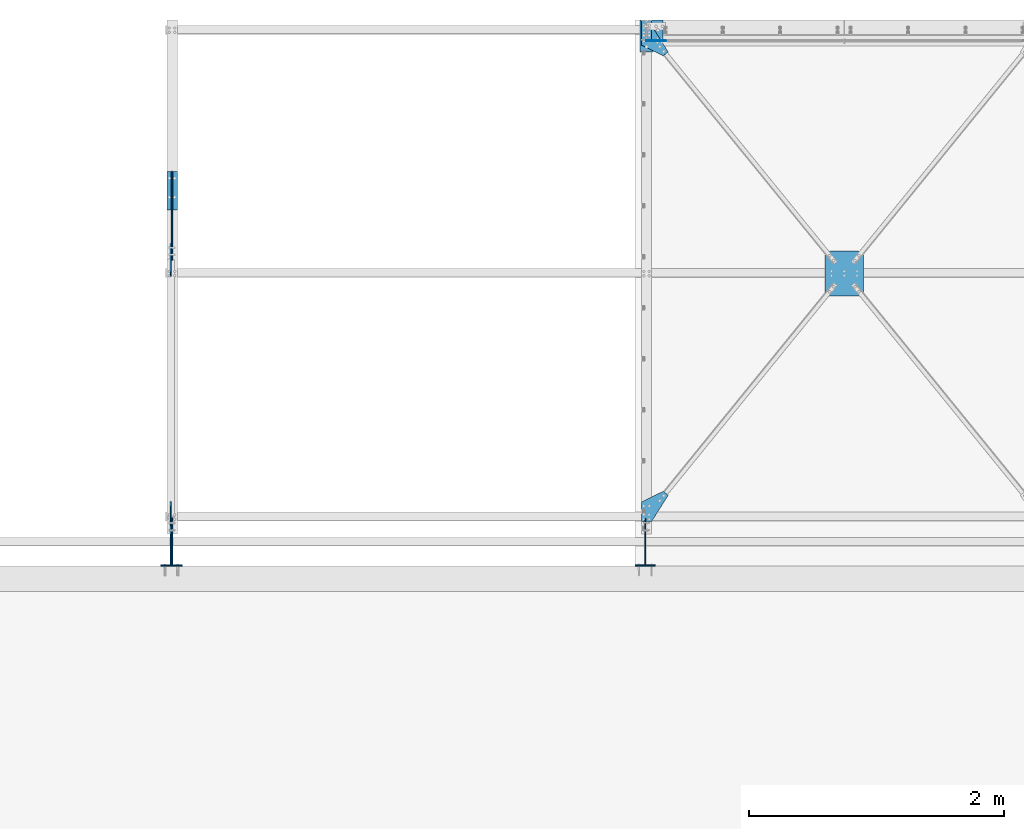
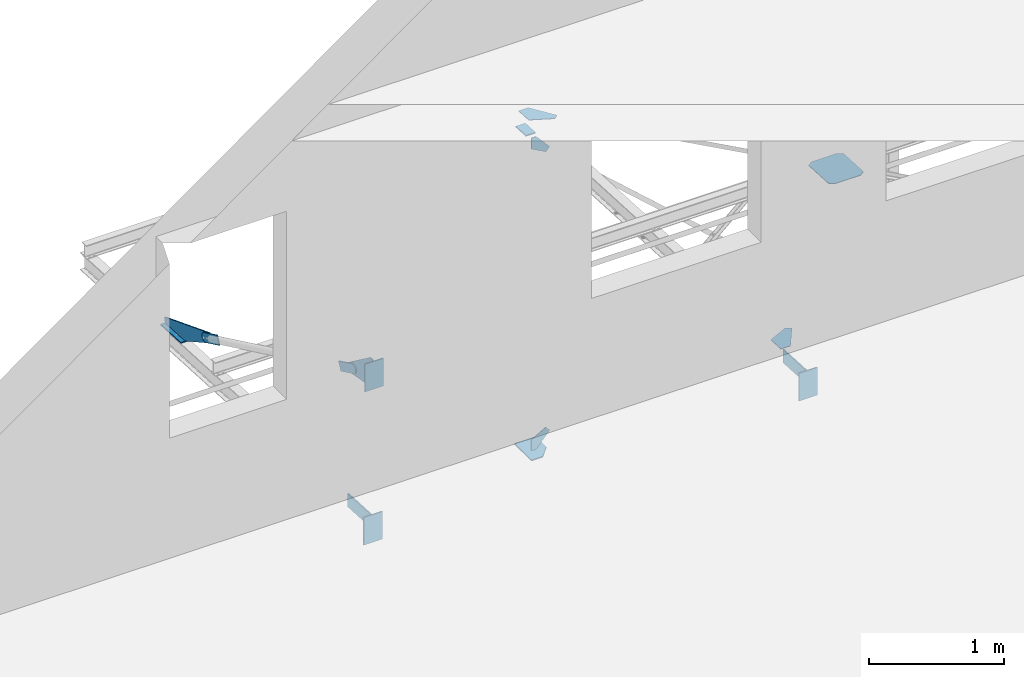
# One storey, part 101 of 362: 17 beams, 11 elements without a shape of their own.
"""IFC2X3 building model written with IfcOpenShell, lengths in millimetres."""

from ifc_helpers import new_model, si_unit, frame, frame_2d, origin_with_axes, origin_2d_with_axis, place, context, subcontext, project, spatial, polyline, circle_curve, parameter, trimmed, segment, composite_curve, rectangle, outline, extrude, material, type_object, element, aggregate, save


model = new_model("IFC2X3")

# Units and contexts
model_context = context("Model", 3, precision=1e-05, world=origin_with_axes())
body_context = subcontext(model_context, "Body", "Model", "MODEL_VIEW")
ifc_project = project(units=[si_unit("LENGTHUNIT", "METRE", prefix="MILLI"), si_unit("AREAUNIT", "SQUARE_METRE"), si_unit("VOLUMEUNIT", "CUBIC_METRE"), si_unit("MASSUNIT", "GRAM", prefix="KILO"), si_unit("TIMEUNIT", "SECOND"), si_unit("PLANEANGLEUNIT", "RADIAN"), si_unit("SOLIDANGLEUNIT", "STERADIAN"), si_unit("THERMODYNAMICTEMPERATUREUNIT", "DEGREE_CELSIUS"), si_unit("LUMINOUSINTENSITYUNIT", "LUMEN")], contexts=[model_context])

# Site, building, storey
site_placement = place(None, origin_with_axes())
site = spatial("IfcSite", under=ifc_project, at=site_placement, Name="Undefined", CompositionType="ELEMENT")
building_placement = place(site_placement, origin_with_axes())
building = spatial("IfcBuilding", under=site, at=building_placement, Name="Undefined", CompositionType="ELEMENT")
storey_placement = place(building_placement, origin_with_axes())
storey = spatial("IfcBuildingStorey", under=building, at=storey_placement, Name="Undefined", CompositionType="ELEMENT", Elevation=0.0)

# Assembly, beams
assembly_1_placement = place(storey_placement, origin_with_axes())
assembly_1 = element("IfcElementAssembly", 1, at=assembly_1_placement, inside=storey, AssemblyPlace="NOTDEFINED", PredefinedType="NOTDEFINED")
ifc_material_1 = material(Name="Undefined/S235-E24")
beam_type_1 = type_object("IfcBeamType", Name="PL10*80", PredefinedType="NOTDEFINED")
beam_1_placement = place(assembly_1_placement, frame((25175.0000293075, 27344.6103668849, 3273.48983429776), z_axis=(1.0, 0.0, 0.0), x_axis=(0.0, -0.431020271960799, -0.902342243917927)))
beam_1 = element("IfcBeam", 2, at=beam_1_placement, type_object=beam_type_1, material=ifc_material_1, Name="GOUSSET", ObjectType="PL10*80", context=body_context, shape_type="SweptSolid", body=[
    extrude(outline(composite_curve([segment(polyline([(0.0, 0.0), (80.00000000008, 8.00355337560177e-11), (80.0000000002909, 219.999999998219)]), True, "CONTINUOUS"), segment(trimmed(circle_curve(frame_2d((40.0000000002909, 219.999999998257), x_axis=(1.0, 0.0)), 40.0), [parameter(0.0)], [parameter(1.57079632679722)], True, "PARAMETER"), True, "CONTINUOUS"), segment(trimmed(circle_curve(frame_2d((40.0000000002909, 219.999999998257), x_axis=(0.0, 1.0)), 40.0), [parameter(0.0)], [parameter(1.57079632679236)], True, "PARAMETER"), True, "CONTINUOUS"), segment(polyline([(2.58576339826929e-10, 219.999999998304), (0.0, 0.0)]), True, "CONTINUOUS")], self_intersect=True)), frame((0.0, 0.0, -5.0), z_axis=(0.0, 0.0, 1.0), x_axis=(1.0, 0.0, 0.0)), (0.0, 0.0, 1.0), 10.0),
])
beam_2_placement = place(assembly_1_placement, frame((25175.0000297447, 25546.3609697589, 4132.45653951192), z_axis=(-1.0, 0.0, 0.0), x_axis=(0.0, -0.431020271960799, -0.902342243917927)))
beam_2 = element("IfcBeam", 3, at=beam_2_placement, type_object=beam_type_1, material=ifc_material_1, Name="GOUSSET", ObjectType="PL10*80", context=body_context, shape_type="SweptSolid", body=[
    extrude(outline(composite_curve([segment(polyline([(0.0, 0.0), (80.00000000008, 8.00355337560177e-11), (80.0000000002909, 219.999999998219)]), True, "CONTINUOUS"), segment(trimmed(circle_curve(frame_2d((40.0000000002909, 219.999999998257), x_axis=(1.0, 0.0)), 40.0), [parameter(0.0)], [parameter(1.57079632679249)], True, "PARAMETER"), True, "CONTINUOUS"), segment(trimmed(circle_curve(frame_2d((40.0000000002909, 219.999999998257), x_axis=(0.0, 1.0)), 40.0), [parameter(0.0)], [parameter(1.57079632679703)], True, "PARAMETER"), True, "CONTINUOUS"), segment(polyline([(2.58576339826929e-10, 219.999999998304), (0.0, 0.0)]), True, "CONTINUOUS")], self_intersect=True)), frame((0.0, 0.0, -5.0), z_axis=(0.0, 0.0, 1.0), x_axis=(1.0, 0.0, 0.0)), (0.0, 0.0, 1.0), 10.0),
])
aggregate(assembly_1, [beam_1, beam_2])

# Assembly, beam
assembly_2_placement = place(storey_placement, origin_with_axes())
assembly_2 = element("IfcElementAssembly", 4, at=assembly_2_placement, inside=storey, AssemblyPlace="NOTDEFINED", PredefinedType="NOTDEFINED")
beam_type_2 = type_object("IfcBeamType", Name="PL5*157", PredefinedType="NOTDEFINED")
beam_3_placement = place(assembly_2_placement, frame((29026.3497644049, 29157.4999999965, 2481.02868492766), z_axis=(0.0, 1.0, 0.0), x_axis=(-0.872821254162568, 0.0, 0.488040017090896)))
beam_3 = element("IfcBeam", 5, at=beam_3_placement, type_object=beam_type_2, material=ifc_material_1, Name="GOUSSET", ObjectType="PL5*157", context=body_context, shape_type="SweptSolid", body=[
    extrude(outline(polyline([(0.0, 0.0), (141.32307433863, 1.14596332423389e-10), (190.127075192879, 87.282104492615), (154.341445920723, 107.291732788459), (-10.885918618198, 48.8027305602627), (0.0, 0.0)])), frame((0.0, 0.0, -2.5), z_axis=(0.0, 0.0, 1.0), x_axis=(1.0, 0.0, 0.0)), (0.0, 0.0, 1.0), 5.0),
])
aggregate(assembly_2, [beam_3])

assembly_3_placement = place(storey_placement, origin_with_axes())
assembly_3 = element("IfcElementAssembly", 6, at=assembly_3_placement, inside=storey, AssemblyPlace="NOTDEFINED", PredefinedType="NOTDEFINED")
beam_4_placement = place(assembly_3_placement, frame((29059.6982862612, 29157.4999999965, -43.2829862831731), z_axis=(0.0, 1.0, 0.0), x_axis=(-0.659944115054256, 0.0, -0.751314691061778)))
beam_4 = element("IfcBeam", 7, at=beam_4_placement, type_object=beam_type_2, material=ifc_material_1, Name="GOUSSET", ObjectType="PL5*157", context=body_context, shape_type="SweptSolid", body=[
    extrude(outline(polyline([(0.0, 0.0), (175.315383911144, -3.89263732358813e-10), (202.37309265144, 30.8039016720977), (127.24160766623, 96.7983245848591), (-5.98146963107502, 49.6409301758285), (0.0, 0.0)])), frame((0.0, 0.0, -2.5), z_axis=(0.0, 0.0, 1.0), x_axis=(1.0, 0.0, 0.0)), (0.0, 0.0, 1.0), 5.0),
])
aggregate(assembly_3, [beam_4])

assembly_4_placement = place(storey_placement, origin_with_axes())
assembly_4 = element("IfcElementAssembly", 8, at=assembly_4_placement, inside=storey, Name="POTEAU", AssemblyPlace="NOTDEFINED", PredefinedType="NOTDEFINED")
beam_type_3 = type_object("IfcBeamType", Name="PL10*82", PredefinedType="NOTDEFINED")
beam_5_placement = place(assembly_4_placement, frame((28902.9999703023, 29316.656577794, 2668.75845304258), z_axis=(1.0, 0.0, 0.0), x_axis=(0.0, -0.998630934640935, 0.0523092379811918)))
beam_5 = element("IfcBeam", 9, at=beam_5_placement, type_object=beam_type_3, material=ifc_material_1, Name="PLAT", ObjectType="PL10*82", context=body_context, shape_type="SweptSolid", body=[
    extrude(rectangle(XDim=10.0, YDim=82.0, at=origin_2d_with_axis()), frame((152.999350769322, 0.0, 0.0), z_axis=(-1.0, 0.0, 0.0), x_axis=(0.0, -1.0, 0.0)), (0.0, 0.0, 1.0), 153.0),
])

assembly_5_placement = place(storey_placement, origin_with_axes())
assembly_5 = element("IfcElementAssembly", 10, at=assembly_5_placement, inside=storey, AssemblyPlace="NOTDEFINED", PredefinedType="NOTDEFINED")
ifc_material_2 = material(Name="Undefined/S275-E28")
beam_6_placement = place(assembly_5_placement, frame((25185.000028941, 27831.4545141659, 2916.78781044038), z_axis=(1.0, 0.0, 0.0), x_axis=(-6.99999093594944e-09, 0.998630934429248, -0.0523092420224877)))
beam_6 = element("IfcBeam", 11, at=beam_6_placement, type_object=beam_type_3, material=ifc_material_2, Name="PLATINE", ObjectType="PL10*82", context=body_context, shape_type="SweptSolid", body=[
    extrude(rectangle(XDim=10.0, YDim=82.0, at=origin_2d_with_axis()), frame((300.0, 0.0, 0.0), z_axis=(-1.0, 0.0, 0.0), x_axis=(0.0, -1.0, 0.0)), (0.0, 0.0, 1.0), 300.0),
])

assembly_6_placement = place(storey_placement, origin_with_axes())
assembly_6 = element("IfcElementAssembly", 12, at=assembly_6_placement, inside=storey, AssemblyPlace="NOTDEFINED", PredefinedType="NOTDEFINED")
beam_type_4 = type_object("IfcBeamType", Name="PL5*300", PredefinedType="NOTDEFINED")
beam_7_placement = place(assembly_6_placement, frame((30302.8720014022, 27187.3588080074, 2943.01587178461), z_axis=(-3.30331196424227e-10, 0.0523092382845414, 0.998630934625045), x_axis=(0.776487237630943, -0.629270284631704, 0.0329617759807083)))
beam_7 = element("IfcBeam", 13, at=beam_7_placement, type_object=beam_type_4, material=ifc_material_1, Name="GOUSSET", ObjectType="PL5*300", context=body_context, shape_type="SweptSolid", body=[
    extrude(outline(polyline([(0.0, 0.0), (50.0, 0.0), (222.851638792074, 140.272125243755), (233.144882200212, 189.201156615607), (49.9999999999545, 414.883178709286), (-7.53022504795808e-07, 414.883178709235), (-172.851669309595, 274.611022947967), (-183.144912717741, 225.681991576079), (0.0, 0.0)])), frame((0.0, 0.0, -2.5), z_axis=(0.0, 0.0, 1.0), x_axis=(1.0, 0.0, 0.0)), (0.0, 0.0, 1.0), 5.0),
])
aggregate(assembly_6, [beam_7])

assembly_7_placement = place(storey_placement, origin_with_axes())
assembly_7 = element("IfcElementAssembly", 14, at=assembly_7_placement, inside=storey, AssemblyPlace="NOTDEFINED", PredefinedType="NOTDEFINED")
beam_type_5 = type_object("IfcBeamType", Name="PL5*211", PredefinedType="NOTDEFINED")
beam_8_placement = place(assembly_7_placement, frame((28861.9999396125, 25541.1572011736, 3031.74890578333), z_axis=(-3.30331196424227e-10, 0.0523092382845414, 0.998630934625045), x_axis=(0.0, -0.998630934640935, 0.0523092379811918)))
beam_8 = element("IfcBeam", 15, at=beam_8_placement, type_object=beam_type_5, material=ifc_material_1, Name="GOUSSET", ObjectType="PL5*211", context=body_context, shape_type="SweptSolid", body=[
    extrude(outline(polyline([(0.0, 0.0), (149.999999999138, -4.0381564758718e-10), (149.999999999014, 82.0000305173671), (-54.2889137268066, 211.461898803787), (-85.7955627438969, 172.637542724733), (0.0, 0.0)])), frame((0.0, 0.0, -2.5), z_axis=(0.0, 0.0, 1.0), x_axis=(1.0, 0.0, 0.0)), (0.0, 0.0, 1.0), 5.0),
])
aggregate(assembly_7, [beam_8])

assembly_8_placement = place(storey_placement, origin_with_axes())
assembly_8 = element("IfcElementAssembly", 16, at=assembly_8_placement, inside=storey, AssemblyPlace="NOTDEFINED", PredefinedType="NOTDEFINED")
beam_9_placement = place(assembly_8_placement, frame((28861.9999390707, 29273.8650059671, 2836.22611900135), z_axis=(-3.30331196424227e-10, 0.0523092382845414, 0.998630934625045), x_axis=(0.0, -0.998630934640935, 0.0523092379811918)))
beam_9 = element("IfcBeam", 17, at=beam_9_placement, type_object=beam_type_5, material=ifc_material_1, Name="GOUSSET", ObjectType="PL5*211", context=body_context, shape_type="SweptSolid", body=[
    extrude(outline(polyline([(0.0, 0.0), (149.999999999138, -4.0381564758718e-10), (235.797088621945, 172.637512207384), (204.29043579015, 211.461868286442), (3.75086528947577e-07, 81.9999694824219), (0.0, 0.0)])), frame((0.0, 0.0, -2.5), z_axis=(0.0, 0.0, 1.0), x_axis=(1.0, 0.0, 0.0)), (0.0, 0.0, 1.0), 5.0),
])
aggregate(assembly_8, [beam_9])

assembly_9_placement = place(storey_placement, origin_with_axes())
assembly_9 = element("IfcElementAssembly", 18, at=assembly_9_placement, inside=storey, AssemblyPlace="NOTDEFINED", PredefinedType="NOTDEFINED")
beam_type_6 = type_object("IfcBeamType", Name="PL10*160", PredefinedType="NOTDEFINED")
beam_10_placement = place(assembly_9_placement, frame((28893.0000296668, 25044.9999028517, 3050.00032752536), z_axis=(1.0, 0.0, 0.0), x_axis=(0.0, 0.0, -1.0)))
beam_10 = element("IfcBeam", 19, at=beam_10_placement, type_object=beam_type_6, material=ifc_material_2, Name="PLATINE", ObjectType="PL10*160", context=body_context, shape_type="SweptSolid", body=[
    extrude(rectangle(XDim=10.0, YDim=160.0, at=origin_2d_with_axis()), frame((249.999999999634, 3.6379788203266e-12, 0.0), z_axis=(-1.0, 0.0, 0.0), x_axis=(0.0, -1.0, 0.0)), (0.0, 0.0, 1.0), 250.0),
])

assembly_10_placement = place(storey_placement, origin_with_axes())
assembly_10 = element("IfcElementAssembly", 20, at=assembly_10_placement, inside=storey, AssemblyPlace="NOTDEFINED", PredefinedType="NOTDEFINED")
beam_11_placement = place(assembly_10_placement, frame((25185.0000296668, 25044.9999028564, 4430.00032752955), z_axis=(1.0, 0.0, 0.0), x_axis=(0.0, 0.0, -1.0)))
beam_11 = element("IfcBeam", 21, at=beam_11_placement, type_object=beam_type_6, material=ifc_material_2, Name="PLATINE", ObjectType="PL10*160", context=body_context, shape_type="SweptSolid", body=[
    extrude(rectangle(XDim=10.0, YDim=160.0, at=origin_2d_with_axis()), frame((249.999999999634, 3.6379788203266e-12, 0.0), z_axis=(-1.0, 0.0, 0.0), x_axis=(0.0, -1.0, 0.0)), (0.0, 0.0, 1.0), 250.0),
])

assembly_11_placement = place(storey_placement, origin_with_axes())
assembly_11 = element("IfcElementAssembly", 22, at=assembly_11_placement, inside=storey, AssemblyPlace="NOTDEFINED", PredefinedType="NOTDEFINED")
beam_12_placement = place(assembly_11_placement, frame((25175.0000296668, 25044.9999028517, 3050.00032752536), z_axis=(1.0, 0.0, 0.0), x_axis=(0.0, 0.0, -1.0)))
beam_12 = element("IfcBeam", 23, at=beam_12_placement, type_object=beam_type_6, material=ifc_material_2, Name="PLATINE", ObjectType="PL10*160", context=body_context, shape_type="SweptSolid", body=[
    extrude(rectangle(XDim=10.0, YDim=160.0, at=origin_2d_with_axis()), frame((249.999999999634, 3.6379788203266e-12, 0.0), z_axis=(-1.0, 0.0, 0.0), x_axis=(0.0, -1.0, 0.0)), (0.0, 0.0, 1.0), 250.0),
])

# Beam
beam_type_7 = type_object("IfcBeamType", Name="PL10*360", PredefinedType="NOTDEFINED")
beam_13_placement = place(assembly_9_placement, frame((28893.0000296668, 25409.9999999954, 2898.42711388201), z_axis=(-1.0, 0.0, 0.0), x_axis=(0.0, -0.998630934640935, 0.0523092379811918)))
beam_13 = element("IfcBeam", 24, at=beam_13_placement, type_object=beam_type_7, material=ifc_material_1, Name="GOUSSET", ObjectType="PL10*360", context=body_context, shape_type="SweptSolid", body=[
    extrude(outline(polyline([(0.0, 0.0), (230.315322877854, 6.41193764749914e-10), (334.385864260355, -116.077178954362), (354.358612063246, -117.123367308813), (366.779327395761, 120.000000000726), (6.28570985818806, 120.000007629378), (0.0, 0.0)])), frame((0.0, 0.0, -5.0), z_axis=(0.0, 0.0, 1.0), x_axis=(1.0, 0.0, 0.0)), (0.0, 0.0, 1.0), 10.0),
])

aggregate(assembly_9, [beam_10, beam_13])

beam_14_placement = place(assembly_11_placement, frame((25175.0000296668, 25409.9999999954, 2898.42711388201), z_axis=(-1.0, 0.0, 0.0), x_axis=(0.0, -0.998630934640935, 0.0523092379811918)))
beam_14 = element("IfcBeam", 25, at=beam_14_placement, type_object=beam_type_7, material=ifc_material_1, Name="GOUSSET", ObjectType="PL10*360", context=body_context, shape_type="SweptSolid", body=[
    extrude(outline(polyline([(0.0, 0.0), (230.315322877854, 6.41193764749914e-10), (334.385864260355, -116.077178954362), (354.358612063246, -117.123367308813), (366.779327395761, 120.000000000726), (6.28570985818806, 120.000007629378), (0.0, 0.0)])), frame((0.0, 0.0, -5.0), z_axis=(0.0, 0.0, 1.0), x_axis=(1.0, 0.0, 0.0)), (0.0, 0.0, 1.0), 10.0),
])

aggregate(assembly_11, [beam_12, beam_14])

beam_type_8 = type_object("IfcBeamType", Name="PL10*370", PredefinedType="NOTDEFINED")
beam_15_placement = place(assembly_10_placement, frame((25185.0000297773, 25420.0330477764, 4192.79936103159), z_axis=(-1.0, 0.0, 0.0), x_axis=(0.0, -0.431020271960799, -0.902342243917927)))
beam_15 = element("IfcBeam", 26, at=beam_15_placement, type_object=beam_type_8, material=ifc_material_1, Name="GOUSSET", ObjectType="PL10*370", context=body_context, shape_type="SweptSolid", body=[
    extrude(outline(polyline([(0.0, 0.0), (80.00000000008, 8.00355337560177e-11), (171.041168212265, 328.379669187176), (-54.5444107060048, 436.134674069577), (-76.0954360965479, 391.017608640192), (0.0, 0.0)])), frame((0.0, 0.0, -5.0), z_axis=(0.0, 0.0, 1.0), x_axis=(1.0, 0.0, 0.0)), (0.0, 0.0, 1.0), 10.0),
])

aggregate(assembly_10, [beam_11, beam_15])

beam_type_9 = type_object("IfcBeamType", Name="PL10*141", PredefinedType="NOTDEFINED")
beam_16_placement = place(assembly_5_placement, frame((25185.0000292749, 27470.938273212, 3213.14697970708), z_axis=(1.0, 0.0, 0.0), x_axis=(0.0, -0.431020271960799, -0.902342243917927)))
beam_16 = element("IfcBeam", 27, at=beam_16_placement, type_object=beam_type_9, material=ifc_material_1, Name="GOUSSET", ObjectType="PL10*141", context=body_context, shape_type="SweptSolid", body=[
    extrude(outline(polyline([(0.0, 0.0), (80.00000000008, 8.00355337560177e-11), (107.409309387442, 451.129699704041), (-7.5594706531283, 728.225769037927), (-53.7421607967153, 709.064208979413), (0.0, 0.0)])), frame((0.0, 0.0, -5.0), z_axis=(0.0, 0.0, 1.0), x_axis=(1.0, 0.0, 0.0)), (0.0, 0.0, 1.0), 10.0),
])

aggregate(assembly_5, [beam_6, beam_16])

beam_type_10 = type_object("IfcBeamType", Name="TOLE10*180", PredefinedType="NOTDEFINED")
beam_17_placement = place(assembly_4_placement, frame((29032.9999997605, 29320.0000661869, -195.0), z_axis=(0.0, 0.0, 1.0), x_axis=(-1.0, 0.0, 0.0)))
beam_17 = element("IfcBeam", 28, at=beam_17_placement, type_object=beam_type_10, material=ifc_material_1, Name="PLATINE", ObjectType="TOLE10*180", context=body_context, shape_type="SweptSolid", body=[
    extrude(outline(polyline([(0.0, 0.0), (180.000061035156, 0.0), (180.0, 250.0), (80.0, 250.0), (0.0, 159.999984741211), (0.0, 0.0)])), frame((0.0, 0.0, -5.0), z_axis=(0.0, 0.0, 1.0), x_axis=(1.0, 0.0, 0.0)), (0.0, 0.0, 1.0), 10.0),
])

aggregate(assembly_4, [beam_5, beam_17])

save(model, "model.ifc")
